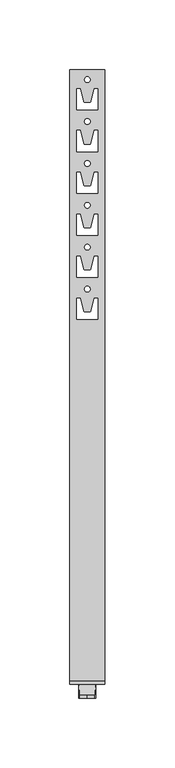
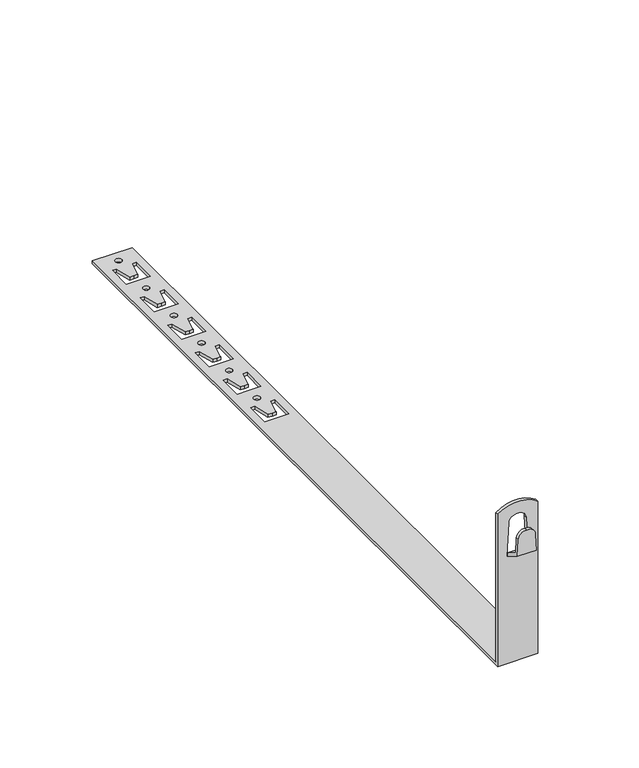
"""IFC4 building model written with IfcOpenShell, lengths in millimetres: proxy geometry, КНС_ДержательПрямойПодЧерепицу_DKC : ND2211CU_Медь_450 мм."""

from ifc_helpers import new_model, si_unit, frame, origin, place, context, project, spatial, polyline, circle_curve, source, transform, mapped, element, save
from ifc_brep_helpers import plane_surface, cylinder_surface, revolved_surface, advanced_brep


def security_devices_2193f6d6(model_context):
    return source(origin(), model_context, "Body", "AdvancedBrep", [
        advanced_brep(
        [(5.3645288, 0.0, 87.6660817), (0.0, 0.0, 92.1674559), (-5.3645288, 0.0, 87.6660817), (-5.9353846, 0.0, 76.7735027), (5.9353846, 0.0, 76.7735027), (6.2379611, 10.0, 71.0), (-6.2379611, 10.0, 71.0), (-6.1169305, 10.0, 73.3094011), (6.1169305, 10.0, 73.3094011), (-5.3645288, 2.0, 87.6660817), (-5.8748694, 2.0, 77.9282032), (5.8748694, 2.0, 77.9282032), (5.3645288, 2.0, 87.6660817), (0.0, 2.0, 92.1674559)],
        [
            (0, 1, circle_curve(frame((0.5834648, 0.0, 87.4155168), z_axis=(0.0, -1.0, 0.0), x_axis=(1.0, 0.0, 0.0)), 4.7876253)),
            (1, 2, circle_curve(frame((-0.5834648, 0.0, 87.4155168), z_axis=(0.0, -1.0, 0.0), x_axis=(1.0, 0.0, 0.0)), 4.7876253)),
            (2, 3),
            (3, 4),
            (4, 0),
            (5, 6),
            (6, 7),
            (7, 8),
            (8, 5),
            (2, 9),
            (9, 10),
            (10, 7),
            (6, 3),
            (4, 5),
            (8, 11),
            (11, 12),
            (12, 0),
            (12, 13, circle_curve(frame((0.5834648, 2.0, 87.4155168), z_axis=(0.0, -1.0, 0.0), x_axis=(1.0, 0.0, 0.0)), 4.7876253)),
            (13, 1),
            (13, 9, circle_curve(frame((-0.5834648, 2.0, 87.4155168), z_axis=(0.0, -1.0, 0.0), x_axis=(1.0, 0.0, 0.0)), 4.7876253)),
            (10, 11),
        ],
        [
            plane_surface(frame((-6.2414541, 0.0, 70.9333499), z_axis=(0.0, -1.0, 0.0), x_axis=(-0.05233595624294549, 0.0, -0.9986295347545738))),
            plane_surface(frame((-6.2414541, 10.0, 70.9333499), z_axis=(0.0, 1.0, 0.0), x_axis=(0.05233595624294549, 0.0, 0.9986295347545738))),
            plane_surface(frame((-5.3645288, 0.0, 87.6660817), z_axis=(-0.9986295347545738, 0.0, 0.05233595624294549), x_axis=(0.0, 1.0, 0.0))),
            plane_surface(frame((6.2379611, 0.0, 71.0), z_axis=(0.9986295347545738, 0.0, 0.05233595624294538), x_axis=(0.0, 1.0, 0.0))),
            cylinder_surface(frame((0.5834648, 10.0, 87.4155168), z_axis=(0.0, -1.0, 0.0), x_axis=(1.0, 0.0, 0.0)), 4.7876253),
            cylinder_surface(frame((-0.5834648, 10.0, 87.4155168), z_axis=(0.0, -1.0, 0.0), x_axis=(1.0, 0.0, 0.0)), 4.7876253),
            plane_surface(frame((12.5, 10.0, 71.0), z_axis=(0.0, -0.5000000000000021, -0.8660254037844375), x_axis=(-1.0, 0.0, 0.0))),
            plane_surface(frame((12.5, 2.0, 77.9282032), z_axis=(0.0, 0.5000000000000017, 0.8660254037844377), x_axis=(-1.0, 0.0, 0.0))),
            plane_surface(frame((12.5, 2.0, 102.9372685), z_axis=(0.0, 1.0, 0.0), x_axis=(-1.0, 0.0, 0.0))),
        ],
        [
            (0, [[1, 2, 3, 4, 5]]),
            (1, [[6, 7, 8, 9]]),
            (2, [[-3, 10, 11, 12, -7, 13]]),
            (3, [[-5, 14, -9, 15, 16, 17]]),
            (4, [[-1, -17, 18, 19]]),
            (5, [[-2, -19, 20, -10]]),
            (6, [[-4, -13, -6, -14]]),
            (7, [[21, -15, -8, -12]]),
            (8, [[-21, -11, -20, -18, -16]]),
        ],
    ),
        advanced_brep(
        [(12.5, 450.0, 2.0), (-12.5, 450.0, 2.0), (-12.5, 12.0, 2.0), (12.5, 12.0, 2.0), (-2.0, 442.9763791, 2.0), (2.0, 442.9763791, 2.0), (-7.5, 421.5, 2.0), (-7.5, 436.5981413, 2.0), (-5.0452497, 436.5981413, 2.0), (-2.5276553, 426.5, 2.0), (0.0, 426.5, 2.0), (2.5276553, 426.5, 2.0), (5.0452497, 436.5981413, 2.0), (7.5, 436.5981413, 2.0), (7.5, 421.5, 2.0), (0.0, 421.5, 2.0), (-2.0, 412.9763791, 2.0), (2.0, 412.9763791, 2.0), (-7.5, 391.5, 2.0), (-7.5, 406.5981413, 2.0), (-5.0452497, 406.5981413, 2.0), (-2.5276553, 396.5, 2.0), (0.0, 396.5, 2.0), (2.5276553, 396.5, 2.0), (5.0452497, 406.5981413, 2.0), (7.5, 406.5981413, 2.0), (7.5, 391.5, 2.0), (0.0, 391.5, 2.0), (-2.0, 382.9763791, 2.0), (2.0, 382.9763791, 2.0), (-7.5, 361.5, 2.0), (-7.5, 376.5981413, 2.0), (-5.0452497, 376.5981413, 2.0), (-2.5276553, 366.5, 2.0), (0.0, 366.5, 2.0), (2.5276553, 366.5, 2.0), (5.0452497, 376.5981413, 2.0), (7.5, 376.5981413, 2.0), (7.5, 361.5, 2.0), (0.0, 361.5, 2.0), (-2.0, 352.9763791, 2.0), (2.0, 352.9763791, 2.0), (-7.5, 331.5, 2.0), (-7.5, 346.5981413, 2.0), (-5.0452497, 346.5981413, 2.0), (-2.5276553, 336.5, 2.0), (0.0, 336.5, 2.0), (2.5276553, 336.5, 2.0), (5.0452497, 346.5981413, 2.0), (7.5, 346.5981413, 2.0), (7.5, 331.5, 2.0), (0.0, 331.5, 2.0), (-2.0, 322.9763791, 2.0), (2.0, 322.9763791, 2.0), (-7.5, 301.5, 2.0), (-7.5, 316.5981413, 2.0), (-5.0452497, 316.5981413, 2.0), (-2.5276553, 306.5, 2.0), (0.0, 306.5, 2.0), (2.5276553, 306.5, 2.0), (5.0452497, 316.5981413, 2.0), (7.5, 316.5981413, 2.0), (7.5, 301.5, 2.0), (0.0, 301.5, 2.0), (-2.0, 292.9763791, 2.0), (2.0, 292.9763791, 2.0), (-7.5, 271.5, 2.0), (-7.5, 286.5981413, 2.0), (-5.0452497, 286.5981413, 2.0), (-2.5276553, 276.5, 2.0), (0.0, 276.5, 2.0), (2.5276553, 276.5, 2.0), (5.0452497, 286.5981413, 2.0), (7.5, 286.5981413, 2.0), (7.5, 271.5, 2.0), (0.0, 271.5, 2.0), (12.5, 450.0, 0.0), (12.5, 10.0, 0.0), (-12.5, 10.0, 0.0), (-12.5, 450.0, 0.0), (-2.0, 442.9763791, 0.0), (2.0, 442.9763791, 0.0), (-7.5, 421.5, 0.0), (0.0, 421.5, 0.0), (7.5, 421.5, 0.0), (7.5, 436.5981413, 0.0), (5.0452497, 436.5981413, 0.0), (2.5276553, 426.5, 0.0), (0.0, 426.5, 0.0), (-2.5276553, 426.5, 0.0), (-5.0452497, 436.5981413, 0.0), (-7.5, 436.5981413, 0.0), (-2.0, 412.9763791, 0.0), (2.0, 412.9763791, 0.0), (-7.5, 391.5, 0.0), (0.0, 391.5, 0.0), (7.5, 391.5, 0.0), (7.5, 406.5981413, 0.0), (5.0452497, 406.5981413, 0.0), (2.5276553, 396.5, 0.0), (0.0, 396.5, 0.0), (-2.5276553, 396.5, 0.0), (-5.0452497, 406.5981413, 0.0), (-7.5, 406.5981413, 0.0), (-2.0, 382.9763791, 0.0), (2.0, 382.9763791, 0.0), (-7.5, 361.5, 0.0), (0.0, 361.5, 0.0), (7.5, 361.5, 0.0), (7.5, 376.5981413, 0.0), (5.0452497, 376.5981413, 0.0), (2.5276553, 366.5, 0.0), (0.0, 366.5, 0.0), (-2.5276553, 366.5, 0.0), (-5.0452497, 376.5981413, 0.0), (-7.5, 376.5981413, 0.0), (-2.0, 352.9763791, 0.0), (2.0, 352.9763791, 0.0), (-7.5, 331.5, 0.0), (0.0, 331.5, 0.0), (7.5, 331.5, 0.0), (7.5, 346.5981413, 0.0), (5.0452497, 346.5981413, 0.0), (2.5276553, 336.5, 0.0), (0.0, 336.5, 0.0), (-2.5276553, 336.5, 0.0), (-5.0452497, 346.5981413, 0.0), (-7.5, 346.5981413, 0.0), (-2.0, 322.9763791, 0.0), (2.0, 322.9763791, 0.0), (-7.5, 301.5, 0.0), (0.0, 301.5, 0.0), (7.5, 301.5, 0.0), (7.5, 316.5981413, 0.0), (5.0452497, 316.5981413, 0.0), (2.5276553, 306.5, 0.0), (0.0, 306.5, 0.0), (-2.5276553, 306.5, 0.0), (-5.0452497, 316.5981413, 0.0), (-7.5, 316.5981413, 0.0), (-2.0, 292.9763791, 0.0), (2.0, 292.9763791, 0.0), (-7.5, 271.5, 0.0), (0.0, 271.5, 0.0), (7.5, 271.5, 0.0), (7.5, 286.5981413, 0.0), (5.0452497, 286.5981413, 0.0), (2.5276553, 276.5, 0.0), (0.0, 276.5, 0.0), (-2.5276553, 276.5, 0.0), (-5.0452497, 286.5981413, 0.0), (-7.5, 286.5981413, 0.0), (-12.5, 10.0, 100.874537), (-12.5, 12.0, 100.874537), (12.5, 10.0, 100.874537), (-5.3645288, 10.0, 92.6660817), (0.0, 10.0, 97.1674559), (5.3645288, 10.0, 92.6660817), (6.5, 10.0, 71.0), (-6.5, 10.0, 71.0), (12.5, 12.0, 100.874537), (-5.3645288, 12.0, 92.6660817), (-6.5, 12.0, 71.0), (6.5, 12.0, 71.0), (5.3645288, 12.0, 92.6660817), (0.0, 12.0, 97.1674559)],
        [
            (0, 1),
            (1, 2),
            (2, 3),
            (3, 0),
            (4, 5, circle_curve(frame((0.0, 442.9763791, 2.0), z_axis=(0.0, 0.0, -1.0), x_axis=(1.0, 0.0, 0.0)), 2.0)),
            (5, 4, circle_curve(frame((0.0, 442.9763791, 2.0), z_axis=(0.0, 0.0, -1.0), x_axis=(1.0, 0.0, 0.0)), 2.0)),
            (6, 7),
            (7, 8),
            (8, 9),
            (9, 10),
            (10, 11),
            (11, 12),
            (12, 13),
            (13, 14),
            (14, 15),
            (15, 6),
            (16, 17, circle_curve(frame((0.0, 412.9763791, 2.0), z_axis=(0.0, 0.0, -1.0), x_axis=(1.0, 0.0, 0.0)), 2.0)),
            (17, 16, circle_curve(frame((0.0, 412.9763791, 2.0), z_axis=(0.0, 0.0, -1.0), x_axis=(1.0, 0.0, 0.0)), 2.0)),
            (18, 19),
            (19, 20),
            (20, 21),
            (21, 22),
            (22, 23),
            (23, 24),
            (24, 25),
            (25, 26),
            (26, 27),
            (27, 18),
            (28, 29, circle_curve(frame((0.0, 382.9763791, 2.0), z_axis=(0.0, 0.0, -1.0), x_axis=(1.0, 0.0, 0.0)), 2.0)),
            (29, 28, circle_curve(frame((0.0, 382.9763791, 2.0), z_axis=(0.0, 0.0, -1.0), x_axis=(1.0, 0.0, 0.0)), 2.0)),
            (30, 31),
            (31, 32),
            (32, 33),
            (33, 34),
            (34, 35),
            (35, 36),
            (36, 37),
            (37, 38),
            (38, 39),
            (39, 30),
            (40, 41, circle_curve(frame((0.0, 352.9763791, 2.0), z_axis=(0.0, 0.0, -1.0), x_axis=(1.0, 0.0, 0.0)), 2.0)),
            (41, 40, circle_curve(frame((0.0, 352.9763791, 2.0), z_axis=(0.0, 0.0, -1.0), x_axis=(1.0, 0.0, 0.0)), 2.0)),
            (42, 43),
            (43, 44),
            (44, 45),
            (45, 46),
            (46, 47),
            (47, 48),
            (48, 49),
            (49, 50),
            (50, 51),
            (51, 42),
            (52, 53, circle_curve(frame((0.0, 322.9763791, 2.0), z_axis=(0.0, 0.0, -1.0), x_axis=(1.0, 0.0, 0.0)), 2.0)),
            (53, 52, circle_curve(frame((0.0, 322.9763791, 2.0), z_axis=(0.0, 0.0, -1.0), x_axis=(1.0, 0.0, 0.0)), 2.0)),
            (54, 55),
            (55, 56),
            (56, 57),
            (57, 58),
            (58, 59),
            (59, 60),
            (60, 61),
            (61, 62),
            (62, 63),
            (63, 54),
            (64, 65, circle_curve(frame((0.0, 292.9763791, 2.0), z_axis=(0.0, 0.0, -1.0), x_axis=(1.0, 0.0, 0.0)), 2.0)),
            (65, 64, circle_curve(frame((0.0, 292.9763791, 2.0), z_axis=(0.0, 0.0, -1.0), x_axis=(1.0, 0.0, 0.0)), 2.0)),
            (66, 67),
            (67, 68),
            (68, 69),
            (69, 70),
            (70, 71),
            (71, 72),
            (72, 73),
            (73, 74),
            (74, 75),
            (75, 66),
            (76, 77),
            (77, 78),
            (78, 79),
            (79, 76),
            (80, 81, circle_curve(frame((0.0, 442.9763791, 0.0), z_axis=(0.0, 0.0, 1.0), x_axis=(1.0, 0.0, 0.0)), 2.0)),
            (81, 80, circle_curve(frame((0.0, 442.9763791, 0.0), z_axis=(0.0, 0.0, 1.0), x_axis=(1.0, 0.0, 0.0)), 2.0)),
            (82, 83),
            (83, 84),
            (84, 85),
            (85, 86),
            (86, 87),
            (87, 88),
            (88, 89),
            (89, 90),
            (90, 91),
            (91, 82),
            (92, 93, circle_curve(frame((0.0, 412.9763791, 0.0), z_axis=(0.0, 0.0, 1.0), x_axis=(1.0, 0.0, 0.0)), 2.0)),
            (93, 92, circle_curve(frame((0.0, 412.9763791, 0.0), z_axis=(0.0, 0.0, 1.0), x_axis=(1.0, 0.0, 0.0)), 2.0)),
            (94, 95),
            (95, 96),
            (96, 97),
            (97, 98),
            (98, 99),
            (99, 100),
            (100, 101),
            (101, 102),
            (102, 103),
            (103, 94),
            (104, 105, circle_curve(frame((0.0, 382.9763791, 0.0), z_axis=(0.0, 0.0, 1.0), x_axis=(1.0, 0.0, 0.0)), 2.0)),
            (105, 104, circle_curve(frame((0.0, 382.9763791, 0.0), z_axis=(0.0, 0.0, 1.0), x_axis=(1.0, 0.0, 0.0)), 2.0)),
            (106, 107),
            (107, 108),
            (108, 109),
            (109, 110),
            (110, 111),
            (111, 112),
            (112, 113),
            (113, 114),
            (114, 115),
            (115, 106),
            (116, 117, circle_curve(frame((0.0, 352.9763791, 0.0), z_axis=(0.0, 0.0, 1.0), x_axis=(1.0, 0.0, 0.0)), 2.0)),
            (117, 116, circle_curve(frame((0.0, 352.9763791, 0.0), z_axis=(0.0, 0.0, 1.0), x_axis=(1.0, 0.0, 0.0)), 2.0)),
            (118, 119),
            (119, 120),
            (120, 121),
            (121, 122),
            (122, 123),
            (123, 124),
            (124, 125),
            (125, 126),
            (126, 127),
            (127, 118),
            (128, 129, circle_curve(frame((0.0, 322.9763791, 0.0), z_axis=(0.0, 0.0, 1.0), x_axis=(1.0, 0.0, 0.0)), 2.0)),
            (129, 128, circle_curve(frame((0.0, 322.9763791, 0.0), z_axis=(0.0, 0.0, 1.0), x_axis=(1.0, 0.0, 0.0)), 2.0)),
            (130, 131),
            (131, 132),
            (132, 133),
            (133, 134),
            (134, 135),
            (135, 136),
            (136, 137),
            (137, 138),
            (138, 139),
            (139, 130),
            (140, 141, circle_curve(frame((0.0, 292.9763791, 0.0), z_axis=(0.0, 0.0, 1.0), x_axis=(1.0, 0.0, 0.0)), 2.0)),
            (141, 140, circle_curve(frame((0.0, 292.9763791, 0.0), z_axis=(0.0, 0.0, 1.0), x_axis=(1.0, 0.0, 0.0)), 2.0)),
            (142, 143),
            (143, 144),
            (144, 145),
            (145, 146),
            (146, 147),
            (147, 148),
            (148, 149),
            (149, 150),
            (150, 151),
            (151, 142),
            (0, 76),
            (79, 1),
            (78, 152),
            (152, 153),
            (153, 2),
            (77, 154),
            (154, 152, circle_curve(frame((0.0, 10.0, 84.0), z_axis=(0.0, -1.0, 0.0), x_axis=(1.0, 0.0, 0.0)), 21.0)),
            (155, 156, circle_curve(frame((-0.5834648, 10.0, 92.4155168), z_axis=(0.0, 1.0, 0.0), x_axis=(1.0, 0.0, 0.0)), 4.7876253)),
            (156, 157, circle_curve(frame((0.5834648, 10.0, 92.4155168), z_axis=(0.0, 1.0, 0.0), x_axis=(1.0, 0.0, 0.0)), 4.7876253)),
            (157, 158),
            (158, 159),
            (159, 155),
            (3, 160),
            (160, 154),
            (4, 80),
            (81, 5),
            (6, 82),
            (91, 7),
            (90, 8),
            (89, 9),
            (88, 10),
            (87, 11),
            (86, 12),
            (85, 13),
            (84, 14),
            (83, 15),
            (16, 92),
            (93, 17),
            (18, 94),
            (103, 19),
            (102, 20),
            (101, 21),
            (100, 22),
            (99, 23),
            (98, 24),
            (97, 25),
            (96, 26),
            (95, 27),
            (28, 104),
            (105, 29),
            (30, 106),
            (115, 31),
            (114, 32),
            (113, 33),
            (112, 34),
            (111, 35),
            (110, 36),
            (109, 37),
            (108, 38),
            (107, 39),
            (40, 116),
            (117, 41),
            (42, 118),
            (127, 43),
            (126, 44),
            (125, 45),
            (124, 46),
            (123, 47),
            (122, 48),
            (121, 49),
            (120, 50),
            (119, 51),
            (52, 128),
            (129, 53),
            (54, 130),
            (139, 55),
            (138, 56),
            (137, 57),
            (136, 58),
            (135, 59),
            (134, 60),
            (133, 61),
            (132, 62),
            (131, 63),
            (64, 140),
            (141, 65),
            (66, 142),
            (151, 67),
            (150, 68),
            (149, 69),
            (148, 70),
            (147, 71),
            (146, 72),
            (145, 73),
            (144, 74),
            (143, 75),
            (153, 160, circle_curve(frame((0.0, 12.0, 84.0), z_axis=(0.0, 1.0, 0.0), x_axis=(1.0, 0.0, 0.0)), 21.0)),
            (161, 162),
            (162, 163),
            (163, 164),
            (164, 165, circle_curve(frame((0.5834648, 12.0, 92.4155168), z_axis=(0.0, -1.0, 0.0), x_axis=(1.0, 0.0, 0.0)), 4.7876253)),
            (165, 161, circle_curve(frame((-0.5834648, 12.0, 92.4155168), z_axis=(0.0, -1.0, 0.0), x_axis=(1.0, 0.0, 0.0)), 4.7876253)),
            (155, 161),
            (165, 156),
            (164, 157),
            (163, 158),
            (162, 159),
        ],
        [
            plane_surface(frame((-12.5, 450.0, 2.0), z_axis=(0.0, 0.0, 1.0), x_axis=(-1.0, 0.0, 0.0))),
            plane_surface(frame((-12.5, 450.0, 0.0), z_axis=(0.0, 0.0, -1.0), x_axis=(1.0, 0.0, 0.0))),
            plane_surface(frame((12.5, 450.0, 2.0), z_axis=(0.0, 1.0, 0.0), x_axis=(0.0, 0.0, -1.0))),
            plane_surface(frame((-12.5, 450.0, 2.0), z_axis=(-1.0, 0.0, 0.0), x_axis=(0.0, 0.0, -1.0))),
            plane_surface(frame((-12.5, 10.0, 2.0), z_axis=(0.0, -1.0, 0.0), x_axis=(0.0, 0.0, -1.0))),
            plane_surface(frame((12.5, 10.0, 2.0), z_axis=(1.0, 0.0, 0.0), x_axis=(0.0, 0.0, -1.0))),
            revolved_surface(polyline([(2.0, 442.9763791, 0.0), (2.0, 442.9763791, 2.0)]), (0.0, 442.9763791, 0.0), (0.0, 0.0, -1.0)),
            plane_surface(frame((-7.5, 421.5, 2.0), z_axis=(1.0, 0.0, 0.0), x_axis=(0.0, 0.0, -1.0))),
            plane_surface(frame((-7.5, 436.5981413, 2.0), z_axis=(0.0, -1.0, 0.0), x_axis=(0.0, 0.0, -1.0))),
            plane_surface(frame((-5.0452497, 436.5981413, 2.0), z_axis=(-0.9702992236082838, -0.2419078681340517, 0.0), x_axis=(0.0, 0.0, -1.0))),
            plane_surface(frame((-2.5276553, 426.5, 2.0), z_axis=(0.0, -1.0, 0.0), x_axis=(0.0, 0.0, -1.0))),
            plane_surface(frame((0.0, 426.5, 2.0), z_axis=(0.0, -1.0, 0.0), x_axis=(0.0, 0.0, -1.0))),
            plane_surface(frame((2.5276553, 426.5, 2.0), z_axis=(0.9702992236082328, -0.2419078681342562, 0.0), x_axis=(0.0, 0.0, -1.0))),
            plane_surface(frame((5.0452497, 436.5981413, 2.0), z_axis=(0.0, -1.0, 0.0), x_axis=(0.0, 0.0, -1.0))),
            plane_surface(frame((7.5, 436.5981413, 2.0), z_axis=(-1.0, 0.0, 0.0), x_axis=(0.0, 0.0, -1.0))),
            plane_surface(frame((7.5, 421.5, 2.0), z_axis=(0.0, 1.0, 0.0), x_axis=(0.0, 0.0, -1.0))),
            plane_surface(frame((0.0, 421.5, 2.0), z_axis=(0.0, 1.0, 0.0), x_axis=(0.0, 0.0, -1.0))),
            revolved_surface(polyline([(2.0, 412.9763791, 0.0), (2.0, 412.9763791, 2.0)]), (0.0, 412.9763791, 0.0), (0.0, 0.0, -1.0)),
            plane_surface(frame((-7.5, 391.5, 2.0), z_axis=(1.0, 0.0, 0.0), x_axis=(0.0, 0.0, -1.0))),
            plane_surface(frame((-7.5, 406.5981413, 2.0), z_axis=(0.0, -1.0, 0.0), x_axis=(0.0, 0.0, -1.0))),
            plane_surface(frame((-5.0452497, 406.5981413, 2.0), z_axis=(-0.9702992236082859, -0.24190786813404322, 0.0), x_axis=(0.0, 0.0, -1.0))),
            plane_surface(frame((-2.5276553, 396.5, 2.0), z_axis=(0.0, -1.0, 0.0), x_axis=(0.0, 0.0, -1.0))),
            plane_surface(frame((0.0, 396.5, 2.0), z_axis=(0.0, -1.0, 0.0), x_axis=(0.0, 0.0, -1.0))),
            plane_surface(frame((2.5276553, 396.5, 2.0), z_axis=(0.9702992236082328, -0.24190786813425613, 0.0), x_axis=(0.0, 0.0, -1.0))),
            plane_surface(frame((5.0452497, 406.5981413, 2.0), z_axis=(0.0, -1.0, 0.0), x_axis=(0.0, 0.0, -1.0))),
            plane_surface(frame((7.5, 406.5981413, 2.0), z_axis=(-1.0, 0.0, 0.0), x_axis=(0.0, 0.0, -1.0))),
            plane_surface(frame((7.5, 391.5, 2.0), z_axis=(0.0, 1.0, 0.0), x_axis=(0.0, 0.0, -1.0))),
            plane_surface(frame((0.0, 391.5, 2.0), z_axis=(0.0, 1.0, 0.0), x_axis=(0.0, 0.0, -1.0))),
            revolved_surface(polyline([(2.0, 382.9763791, 0.0), (2.0, 382.9763791, 2.0)]), (0.0, 382.9763791, 0.0), (0.0, 0.0, -1.0)),
            plane_surface(frame((-7.5, 361.5, 2.0), z_axis=(1.0, 0.0, 0.0), x_axis=(0.0, 0.0, -1.0))),
            plane_surface(frame((-7.5, 376.5981413, 2.0), z_axis=(0.0, -1.0, 0.0), x_axis=(0.0, 0.0, -1.0))),
            plane_surface(frame((-5.0452497, 376.5981413, 2.0), z_axis=(-0.9702992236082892, -0.24190786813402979, 0.0), x_axis=(0.0, 0.0, -1.0))),
            plane_surface(frame((-2.5276553, 366.5, 2.0), z_axis=(0.0, -1.0, 0.0), x_axis=(0.0, 0.0, -1.0))),
            plane_surface(frame((0.0, 366.5, 2.0), z_axis=(0.0, -1.0, 0.0), x_axis=(0.0, 0.0, -1.0))),
            plane_surface(frame((2.5276553, 366.5, 2.0), z_axis=(0.9702992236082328, -0.24190786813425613, 0.0), x_axis=(0.0, 0.0, -1.0))),
            plane_surface(frame((5.0452497, 376.5981413, 2.0), z_axis=(0.0, -1.0, 0.0), x_axis=(0.0, 0.0, -1.0))),
            plane_surface(frame((7.5, 376.5981413, 2.0), z_axis=(-1.0, 0.0, 0.0), x_axis=(0.0, 0.0, -1.0))),
            plane_surface(frame((7.5, 361.5, 2.0), z_axis=(0.0, 1.0, 0.0), x_axis=(0.0, 0.0, -1.0))),
            plane_surface(frame((0.0, 361.5, 2.0), z_axis=(0.0, 1.0, 0.0), x_axis=(0.0, 0.0, -1.0))),
            revolved_surface(polyline([(2.0, 352.9763791, 0.0), (2.0, 352.9763791, 2.0)]), (0.0, 352.9763791, 0.0), (0.0, 0.0, -1.0)),
            plane_surface(frame((-7.5, 331.5, 2.0), z_axis=(1.0, 0.0, 0.0), x_axis=(0.0, 0.0, -1.0))),
            plane_surface(frame((-7.5, 346.5981413, 2.0), z_axis=(0.0, -1.0, 0.0), x_axis=(0.0, 0.0, -1.0))),
            plane_surface(frame((-5.0452497, 346.5981413, 2.0), z_axis=(-0.9702992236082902, -0.24190786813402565, 0.0), x_axis=(0.0, 0.0, -1.0))),
            plane_surface(frame((-2.5276553, 336.5, 2.0), z_axis=(0.0, -1.0, 0.0), x_axis=(0.0, 0.0, -1.0))),
            plane_surface(frame((0.0, 336.5, 2.0), z_axis=(0.0, -1.0, 0.0), x_axis=(0.0, 0.0, -1.0))),
            plane_surface(frame((2.5276553, 336.5, 2.0), z_axis=(0.9702992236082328, -0.24190786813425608, 0.0), x_axis=(0.0, 0.0, -1.0))),
            plane_surface(frame((5.0452497, 346.5981413, 2.0), z_axis=(0.0, -1.0, 0.0), x_axis=(0.0, 0.0, -1.0))),
            plane_surface(frame((7.5, 346.5981413, 2.0), z_axis=(-1.0, 0.0, 0.0), x_axis=(0.0, 0.0, -1.0))),
            plane_surface(frame((7.5, 331.5, 2.0), z_axis=(0.0, 1.0, 0.0), x_axis=(0.0, 0.0, -1.0))),
            plane_surface(frame((0.0, 331.5, 2.0), z_axis=(0.0, 1.0, 0.0), x_axis=(0.0, 0.0, -1.0))),
            revolved_surface(polyline([(2.0, 322.9763791, 0.0), (2.0, 322.9763791, 2.0)]), (0.0, 322.9763791, 0.0), (0.0, 0.0, -1.0)),
            plane_surface(frame((-7.5, 301.5, 2.0), z_axis=(1.0, 0.0, 0.0), x_axis=(0.0, 0.0, -1.0))),
            plane_surface(frame((-7.5, 316.5981413, 2.0), z_axis=(0.0, -1.0, 0.0), x_axis=(0.0, 0.0, -1.0))),
            plane_surface(frame((-5.0452497, 316.5981413, 2.0), z_axis=(-0.9702992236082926, -0.2419078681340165, 0.0), x_axis=(0.0, 0.0, -1.0))),
            plane_surface(frame((-2.5276553, 306.5, 2.0), z_axis=(0.0, -1.0, 0.0), x_axis=(0.0, 0.0, -1.0))),
            plane_surface(frame((0.0, 306.5, 2.0), z_axis=(0.0, -1.0, 0.0), x_axis=(0.0, 0.0, -1.0))),
            plane_surface(frame((2.5276553, 306.5, 2.0), z_axis=(0.9702992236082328, -0.24190786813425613, 0.0), x_axis=(0.0, 0.0, -1.0))),
            plane_surface(frame((5.0452497, 316.5981413, 2.0), z_axis=(0.0, -1.0, 0.0), x_axis=(0.0, 0.0, -1.0))),
            plane_surface(frame((7.5, 316.5981413, 2.0), z_axis=(-1.0, 0.0, 0.0), x_axis=(0.0, 0.0, -1.0))),
            plane_surface(frame((7.5, 301.5, 2.0), z_axis=(0.0, 1.0, 0.0), x_axis=(0.0, 0.0, -1.0))),
            plane_surface(frame((0.0, 301.5, 2.0), z_axis=(0.0, 1.0, 0.0), x_axis=(0.0, 0.0, -1.0))),
            revolved_surface(polyline([(2.0, 292.9763791, 0.0), (2.0, 292.9763791, 2.0)]), (0.0, 292.9763791, 0.0), (0.0, 0.0, -1.0)),
            plane_surface(frame((-7.5, 271.5, 2.0), z_axis=(1.0, 0.0, 0.0), x_axis=(0.0, 0.0, -1.0))),
            plane_surface(frame((-7.5, 286.5981413, 2.0), z_axis=(0.0, -1.0, 0.0), x_axis=(0.0, 0.0, -1.0))),
            plane_surface(frame((-5.0452497, 286.5981413, 2.0), z_axis=(-0.9702992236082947, -0.24190786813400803, 0.0), x_axis=(0.0, 0.0, -1.0))),
            plane_surface(frame((-2.5276553, 276.5, 2.0), z_axis=(0.0, -1.0, 0.0), x_axis=(0.0, 0.0, -1.0))),
            plane_surface(frame((0.0, 276.5, 2.0), z_axis=(0.0, -1.0, 0.0), x_axis=(0.0, 0.0, -1.0))),
            plane_surface(frame((2.5276553, 276.5, 2.0), z_axis=(0.9702992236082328, -0.2419078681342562, 0.0), x_axis=(0.0, 0.0, -1.0))),
            plane_surface(frame((5.0452497, 286.5981413, 2.0), z_axis=(0.0, -1.0, 0.0), x_axis=(0.0, 0.0, -1.0))),
            plane_surface(frame((7.5, 286.5981413, 2.0), z_axis=(-1.0, 0.0, 0.0), x_axis=(0.0, 0.0, -1.0))),
            plane_surface(frame((7.5, 271.5, 2.0), z_axis=(0.0, 1.0, 0.0), x_axis=(0.0, 0.0, -1.0))),
            plane_surface(frame((0.0, 271.5, 2.0), z_axis=(0.0, 1.0, 0.0), x_axis=(0.0, 0.0, -1.0))),
            plane_surface(frame((-12.5, 12.0, 65.0), z_axis=(0.0, 1.0, 0.0), x_axis=(0.0, 0.0, 1.0))),
            cylinder_surface(frame((0.0, 12.0, 84.0), z_axis=(0.0, -1.0, 0.0), x_axis=(1.0, 0.0, 0.0)), 21.0),
            revolved_surface(polyline([(4.2041605, 12.0, 92.4155168), (4.2041605, 10.0, 92.4155168)]), (-0.5834648, 0.0, 92.4155168), (0.0, 1.0, 0.0)),
            revolved_surface(polyline([(5.3710901, 12.0, 92.4155168), (5.3710901, 10.0, 92.4155168)]), (0.5834648, 0.0, 92.4155168), (0.0, 1.0, 0.0)),
            plane_surface(frame((5.3645288, 10.0, 92.6660817), z_axis=(-0.9986295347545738, 0.0, -0.0523359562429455), x_axis=(0.0, 1.0, 0.0))),
            plane_surface(frame((6.5, 10.0, 71.0), z_axis=(0.0, 0.0, 1.0), x_axis=(0.0, 1.0, 0.0))),
            plane_surface(frame((-6.5, 10.0, 71.0), z_axis=(0.9986295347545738, 0.0, -0.052335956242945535), x_axis=(0.0, 1.0, 0.0))),
        ],
        [
            (0, [[1, 2, 3, 4], [5, 6], [7, 8, 9, 10, 11, 12, 13, 14, 15, 16], [17, 18], [19, 20, 21, 22, 23, 24, 25, 26, 27, 28], [29, 30], [31, 32, 33, 34, 35, 36, 37, 38, 39, 40], [41, 42], [43, 44, 45, 46, 47, 48, 49, 50, 51, 52], [53, 54], [55, 56, 57, 58, 59, 60, 61, 62, 63, 64], [65, 66], [67, 68, 69, 70, 71, 72, 73, 74, 75, 76]]),
            (1, [[77, 78, 79, 80], [81, 82], [83, 84, 85, 86, 87, 88, 89, 90, 91, 92], [93, 94], [95, 96, 97, 98, 99, 100, 101, 102, 103, 104], [105, 106], [107, 108, 109, 110, 111, 112, 113, 114, 115, 116], [117, 118], [119, 120, 121, 122, 123, 124, 125, 126, 127, 128], [129, 130], [131, 132, 133, 134, 135, 136, 137, 138, 139, 140], [141, 142], [143, 144, 145, 146, 147, 148, 149, 150, 151, 152]]),
            (2, [[-1, 153, -80, 154]]),
            (3, [[-154, -79, 155, 156, 157, -2]]),
            (4, [[-155, -78, 158, 159], [160, 161, 162, 163, 164]]),
            (5, [[-153, -4, 165, 166, -158, -77]]),
            (6, [[-5, 167, -82, 168]]),
            (6, [[-6, -168, -81, -167]]),
            (7, [[-7, 169, -92, 170]]),
            (8, [[-8, -170, -91, 171]]),
            (9, [[-9, -171, -90, 172]]),
            (10, [[-10, -172, -89, 173]]),
            (11, [[-11, -173, -88, 174]]),
            (12, [[-12, -174, -87, 175]]),
            (13, [[-13, -175, -86, 176]]),
            (14, [[-14, -176, -85, 177]]),
            (15, [[-15, -177, -84, 178]]),
            (16, [[-16, -178, -83, -169]]),
            (17, [[-17, 179, -94, 180]]),
            (17, [[-18, -180, -93, -179]]),
            (18, [[-19, 181, -104, 182]]),
            (19, [[-20, -182, -103, 183]]),
            (20, [[-21, -183, -102, 184]]),
            (21, [[-22, -184, -101, 185]]),
            (22, [[-23, -185, -100, 186]]),
            (23, [[-24, -186, -99, 187]]),
            (24, [[-25, -187, -98, 188]]),
            (25, [[-26, -188, -97, 189]]),
            (26, [[-27, -189, -96, 190]]),
            (27, [[-28, -190, -95, -181]]),
            (28, [[-29, 191, -106, 192]]),
            (28, [[-30, -192, -105, -191]]),
            (29, [[-31, 193, -116, 194]]),
            (30, [[-32, -194, -115, 195]]),
            (31, [[-33, -195, -114, 196]]),
            (32, [[-34, -196, -113, 197]]),
            (33, [[-35, -197, -112, 198]]),
            (34, [[-36, -198, -111, 199]]),
            (35, [[-37, -199, -110, 200]]),
            (36, [[-38, -200, -109, 201]]),
            (37, [[-39, -201, -108, 202]]),
            (38, [[-40, -202, -107, -193]]),
            (39, [[-41, 203, -118, 204]]),
            (39, [[-42, -204, -117, -203]]),
            (40, [[-43, 205, -128, 206]]),
            (41, [[-44, -206, -127, 207]]),
            (42, [[-45, -207, -126, 208]]),
            (43, [[-46, -208, -125, 209]]),
            (44, [[-47, -209, -124, 210]]),
            (45, [[-48, -210, -123, 211]]),
            (46, [[-49, -211, -122, 212]]),
            (47, [[-50, -212, -121, 213]]),
            (48, [[-51, -213, -120, 214]]),
            (49, [[-52, -214, -119, -205]]),
            (50, [[-53, 215, -130, 216]]),
            (50, [[-54, -216, -129, -215]]),
            (51, [[-55, 217, -140, 218]]),
            (52, [[-56, -218, -139, 219]]),
            (53, [[-57, -219, -138, 220]]),
            (54, [[-58, -220, -137, 221]]),
            (55, [[-59, -221, -136, 222]]),
            (56, [[-60, -222, -135, 223]]),
            (57, [[-61, -223, -134, 224]]),
            (58, [[-62, -224, -133, 225]]),
            (59, [[-63, -225, -132, 226]]),
            (60, [[-64, -226, -131, -217]]),
            (61, [[-65, 227, -142, 228]]),
            (61, [[-66, -228, -141, -227]]),
            (62, [[-67, 229, -152, 230]]),
            (63, [[-68, -230, -151, 231]]),
            (64, [[-69, -231, -150, 232]]),
            (65, [[-70, -232, -149, 233]]),
            (66, [[-71, -233, -148, 234]]),
            (67, [[-72, -234, -147, 235]]),
            (68, [[-73, -235, -146, 236]]),
            (69, [[-74, -236, -145, 237]]),
            (70, [[-75, -237, -144, 238]]),
            (71, [[-76, -238, -143, -229]]),
            (72, [[239, -165, -3, -157], [240, 241, 242, 243, 244]]),
            (73, [[-159, -166, -239, -156]]),
            (74, [[-160, 245, -244, 246]]),
            (75, [[-161, -246, -243, 247]]),
            (76, [[-162, -247, -242, 248]]),
            (77, [[-163, -248, -241, 249]]),
            (78, [[-164, -249, -240, -245]]),
        ],
    ),
    ])


if __name__ == "__main__":
    model = new_model("IFC4")
    model_context = context("Model", 3, world=origin())
    ifc_project = project(units=[si_unit("LENGTHUNIT", "METRE", prefix="MILLI")], contexts=[model_context])
    site = spatial("IfcSite", under=ifc_project)
    building = spatial("IfcBuilding", under=site)
    placement = place(None, origin())
    security_devices_shape = security_devices_2193f6d6(model_context)
    element("IfcBuildingElementProxy", 1, Name="КНС_ДержательПрямойПодЧерепицу_DKC : ND2211CU_Медь_450 мм", ObjectType="КНС_ДержательПрямойПодЧерепицу_DKC : ND2211CU_Медь_450 мм", at=placement, inside=building, context=model_context, shape_type="MappedRepresentation", body=[
        mapped(security_devices_shape, transform((0.0, 0.0, 0.0), x_axis=(1.0, 0.0, 0.0), y_axis=(0.0, 1.0, 0.0), z_axis=(0.0, 0.0, 1.0))),
    ])
    save(model, "model.ifc")
